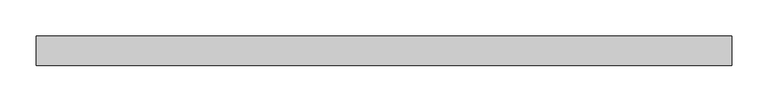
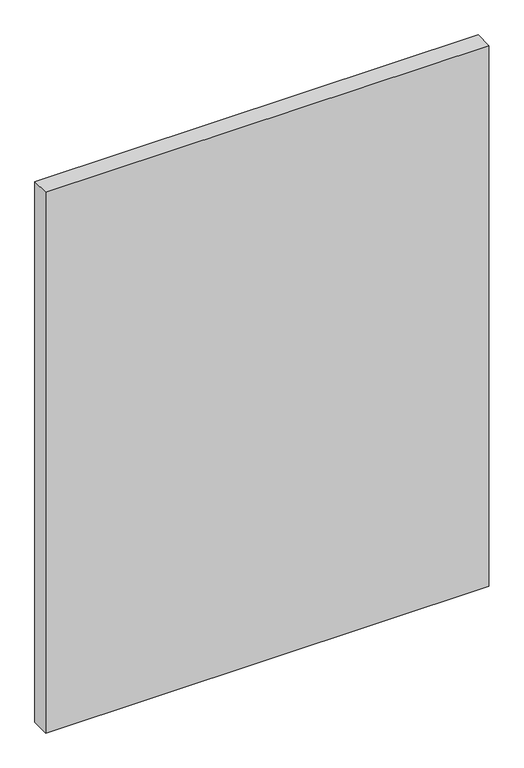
"""IFC4 building model written with IfcOpenShell, lengths in millimetres: plate geometry, Panneau système : Vitre 4cm."""

from ifc_helpers import new_model, si_unit, origin, origin_with_axes, place, context, project, spatial, polyline, outline, extrude, source, transform, mapped, element, save


def plate_0a42b74d(model_context):
    return source(origin(), model_context, "Body", "SweptSolid", [
        extrude(outline(polyline([(477.4516975, -20.0), (-477.4516975, -20.0), (-477.4516975, 20.0), (477.4516975, 20.0), (477.4516975, -20.0)])), origin_with_axes(), (0.0, 0.0, 1.0), 1232.0),
    ])


if __name__ == "__main__":
    model = new_model("IFC4")
    model_context = context("Model", 3, world=origin())
    ifc_project = project(units=[si_unit("LENGTHUNIT", "METRE", prefix="MILLI")], contexts=[model_context])
    site = spatial("IfcSite", under=ifc_project)
    building = spatial("IfcBuilding", under=site)
    placement = place(None, origin())
    plate_shape = plate_0a42b74d(model_context)
    element("IfcPlate", 1, ObjectType="Panneau système : Vitre 4cm", at=placement, inside=building, context=model_context, shape_type="MappedRepresentation", body=[
        mapped(plate_shape, transform((0.0, 0.0, 0.0), x_axis=(1.0, 0.0, 0.0), y_axis=(0.0, 1.0, 0.0), z_axis=(0.0, 0.0, 1.0))),
    ])
    save(model, "model.ifc")
